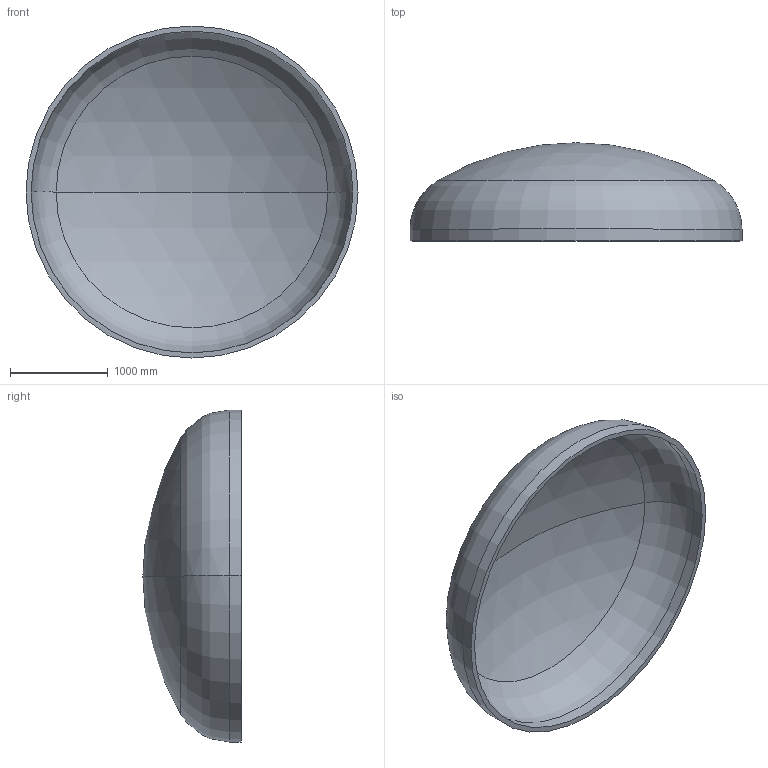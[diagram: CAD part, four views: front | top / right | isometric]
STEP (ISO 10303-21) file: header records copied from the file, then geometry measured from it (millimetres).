
FILE_DESCRIPTION (( 'STEP AP203' ), '1' );
FILE_NAME ('DIN 28013 Korbbogenform_-_Boden DIN 28013 - 3400 x 120 - I - s=52.step', '2016-07-01T19:36:18', ( '' ), ( '' ), 'SwSTEP 2.0', 'SolidWorks 2013', '' );
FILE_SCHEMA (( 'CONFIG_CONTROL_DESIGN' ));
Length unit declared in the file: millimetre
Products named in the file (1): DIN 28013 Korbbogenform_-_Boden DIN 28013 - 3400 x 120 - I - s=52
Bounding box: 3400 x 1006.03 x 3400 mm (x, y, z)
Volume: 706776208.3 mm3; surface area: 27736292.7 mm2
Topology: 1 solids, 1 shells, 13 faces, 24 edges, 14 vertices
Faces by surface type: torus 4, cylinder 4, sphere 4, plane 1
Entity records: 407 total; most frequent: DIRECTION 72, CARTESIAN_POINT 52, ORIENTED_EDGE 48, AXIS2_PLACEMENT_3D 34, EDGE_CURVE 24, CIRCLE 20, EDGE_LOOP 14, VERTEX_POINT 14
